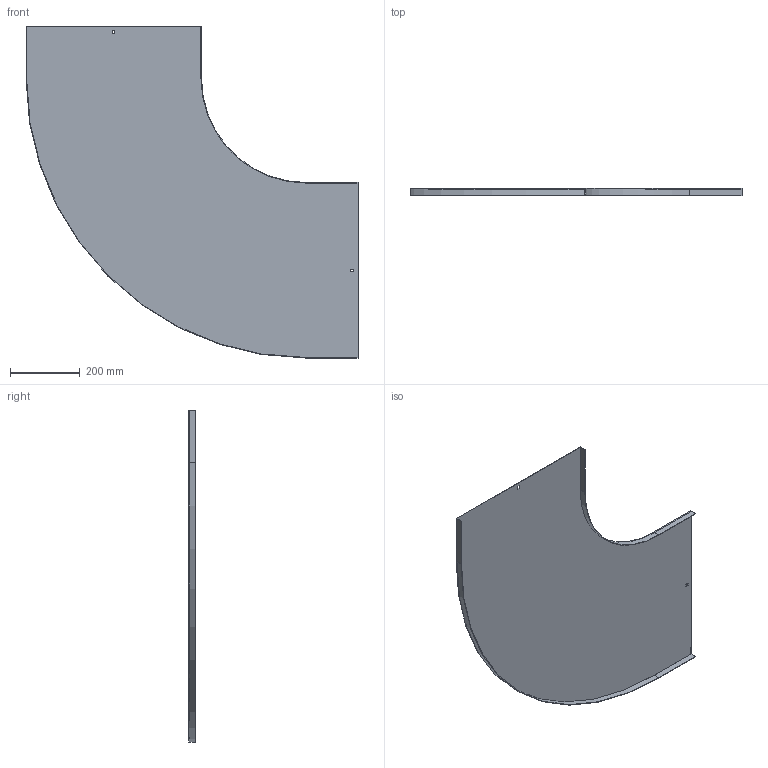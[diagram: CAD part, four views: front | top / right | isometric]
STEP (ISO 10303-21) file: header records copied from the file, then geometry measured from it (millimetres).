
FILE_DESCRIPTION (( 'STEP AP214' ), '1' );
FILE_NAME ('A2_10N3R500.step', '2025-02-21T10:53:55', ( '' ), ( '' ), 'SwSTEP 2.0', 'SolidWorks 2023', '' );
FILE_SCHEMA (( 'AUTOMOTIVE_DESIGN' ));
Length unit declared in the file: millimetre
Products named in the file (1): A2_10N3R500
Bounding box: 951.5 x 20 x 951.5 mm (x, y, z)
Volume: 942614.3 mm3; surface area: 1262023.8 mm2
Topology: 1 solids, 1 shells, 26 faces, 72 edges, 48 vertices
Faces by surface type: plane 22, cylinder 4
Entity records: 855 total; most frequent: CARTESIAN_POINT 147, ORIENTED_EDGE 144, DIRECTION 134, EDGE_CURVE 72, LINE 64, VECTOR 64, VERTEX_POINT 48, AXIS2_PLACEMENT_3D 35
